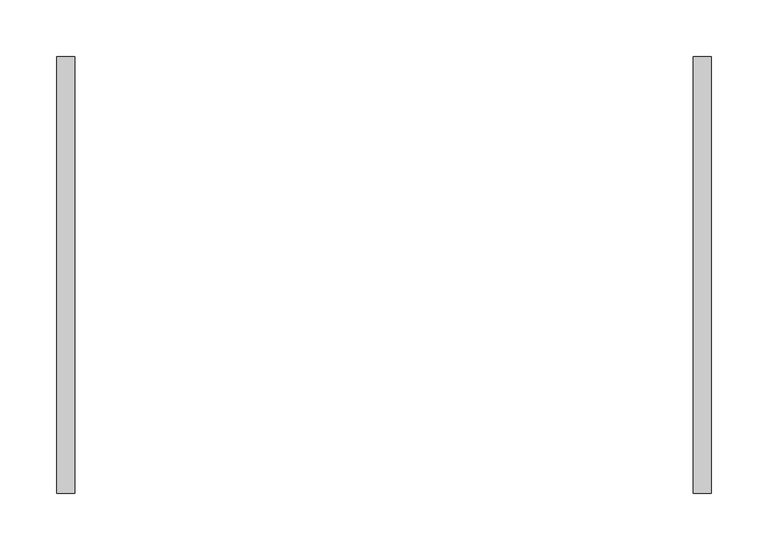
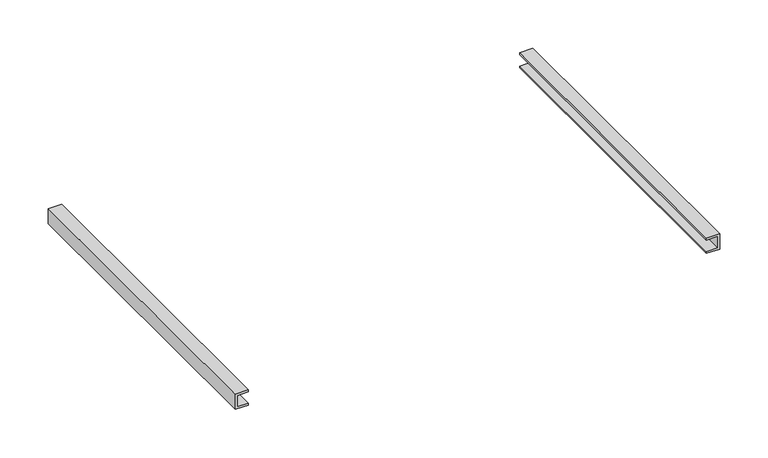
"""IFC4 building model written with IfcOpenShell, lengths in millimetres: furniture geometry."""

from ifc_helpers import new_model, si_unit, frame, origin, place, context, project, spatial, polyline, outline, extrude, source, transform, mapped, element, save


def furniture_79c8ba67(model_context):
    return source(origin(), model_context, "Body", "SweptSolid", [
        extrude(outline(polyline([(863.6, -273.05), (865.98125, -273.05), (865.98125, -286.54375), (880.26875, -286.54375), (880.26875, -273.05), (882.65, -273.05), (882.65, -288.925), (863.6, -288.925), (863.6, -273.05)])), frame((0.0, -385.7625, 0.0), z_axis=(0.0, 1.0, 0.0), x_axis=(0.0, 0.0, 1.0)), (0.0, 0.0, 1.0), 385.7625),
        extrude(outline(polyline([(863.6, 273.05), (863.6, 288.925), (882.65, 288.925), (882.65, 273.05), (880.26875, 273.05), (880.26875, 286.54375), (865.98125, 286.54375), (865.98125, 273.05), (863.6, 273.05)])), frame((0.0, -385.7625, 0.0), z_axis=(0.0, 1.0, 0.0), x_axis=(0.0, 0.0, 1.0)), (0.0, 0.0, 1.0), 385.7625),
    ])


if __name__ == "__main__":
    model = new_model("IFC4")
    model_context = context("Model", 3, world=origin())
    ifc_project = project(units=[si_unit("LENGTHUNIT", "METRE", prefix="MILLI")], contexts=[model_context])
    site = spatial("IfcSite", under=ifc_project)
    building = spatial("IfcBuilding", under=site)
    placement = place(None, origin())
    furniture_shape = furniture_79c8ba67(model_context)
    element("IfcFurniture", 1, ObjectType="HermanMiller_CoStruc_CO266_GripperPackage : 15\"D x 22-1/2\"W", at=placement, inside=building, context=model_context, shape_type="MappedRepresentation", body=[
        mapped(furniture_shape, transform((0.0, 0.0, 0.0), x_axis=(1.0, 0.0, 0.0), y_axis=(0.0, 1.0, 0.0), z_axis=(0.0, 0.0, 1.0))),
    ])
    save(model, "model.ifc")
